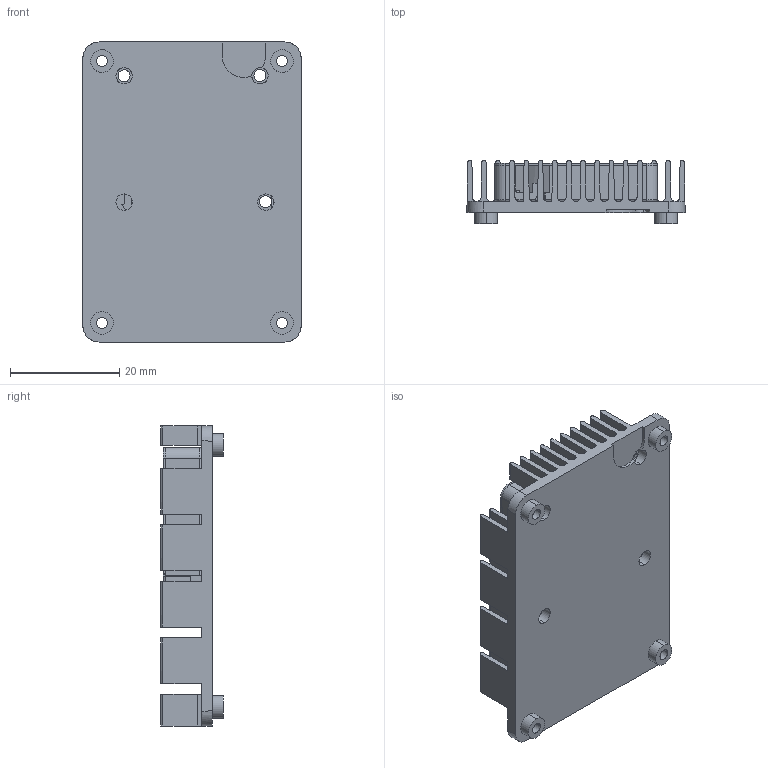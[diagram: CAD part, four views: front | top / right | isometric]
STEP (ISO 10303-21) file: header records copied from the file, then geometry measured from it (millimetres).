
FILE_DESCRIPTION((''),'2;1');
FILE_NAME('CM3_000_ASM','2024-03-19T18:13:05',('admin'),(''),'CREO PARAMETRIC BY PTC INC, 2023424','CREO PARAMETRIC BY PTC INC, 2023424','');
FILE_SCHEMA(('CONFIG_CONTROL_DESIGN','SHAPE_APPEARANCE_LAYERS_GROUPS'));
Length unit declared in the file: millimetre
Products named in the file (27): CM4000_18_1_2_1_11; CM4000_18_1_2_2_11; CM4000_18_1_2_3_11; CM4000_18_1_2_4_11; CM4000_18_1_2_5_11; CM4000_18_1_2_ASM_11_ASM; 3007DIZUOTONGGUAN_2_1_1_2; TONGGUAN_2_1_1_2; DIANPIAN_1_1_1_2; FDB7_1_1_1_2; KOUHUAN_1_1_1_2; TOGNHUAN7_1_1_1_2; YB3007-IMP_2_1_1_2; YB3007ZHOUXIN_1_1_1_2; TIKE7_1_1_1_2; CITIAO7_1_1_1_2; YB3007GZ_1_1_1_2; PCBA07002_1_1_1_2; XIGANGPIAN_2_1_1_1_2; XIGANGPIAN_2_2_1_1_2; XIGANGPIAN_2_3_1_1_2; XIGANGPIAN_2_4_1_1_2; XIGANGPIAN_2_ASM_1_1_2_ASM; YB3007FAN_ASM_8_ASM_1_1_2_ASM; YB3007FAN_ASM_ASM_1_1_2_ASM; ASM0002_ASM; CM3_000_ASM
Assembly tree (26 placements, depth 6):
  CM3_000_ASM
    CM4000_18_1_2_ASM_11_ASM
      CM4000_18_1_2_1_11
      CM4000_18_1_2_2_11
      CM4000_18_1_2_3_11
      CM4000_18_1_2_4_11
      CM4000_18_1_2_5_11
    ASM0002_ASM
      YB3007FAN_ASM_ASM_1_1_2_ASM
        YB3007FAN_ASM_8_ASM_1_1_2_ASM
          3007DIZUOTONGGUAN_2_1_1_2
          TONGGUAN_2_1_1_2
          DIANPIAN_1_1_1_2
          FDB7_1_1_1_2
          KOUHUAN_1_1_1_2
          TOGNHUAN7_1_1_1_2
          YB3007-IMP_2_1_1_2
          YB3007ZHOUXIN_1_1_1_2
          TIKE7_1_1_1_2
          CITIAO7_1_1_1_2
          YB3007GZ_1_1_1_2
          PCBA07002_1_1_1_2
          XIGANGPIAN_2_ASM_1_1_2_ASM
            XIGANGPIAN_2_1_1_1_2
            XIGANGPIAN_2_2_1_1_2
            XIGANGPIAN_2_3_1_1_2
            XIGANGPIAN_2_4_1_1_2
Bounding box: 40 x 11.5 x 55 mm (x, y, z)
Volume: 10295 mm3; surface area: 19296 mm2
Topology: 21 solids, 21 shells, 1551 faces, 4457 edges, 2981 vertices
Faces by surface type: plane 724, cylinder 672, torus 85, cone 60, bspline 6, sphere 4
Entity records: 60885 total; most frequent: CARTESIAN_POINT 10064, DIRECTION 9472, ORIENTED_EDGE 8906, EDGE_CURVE 4453, AXIS2_PLACEMENT_3D 3538, VERTEX_POINT 2981, VECTOR 2396, LINE 2396
